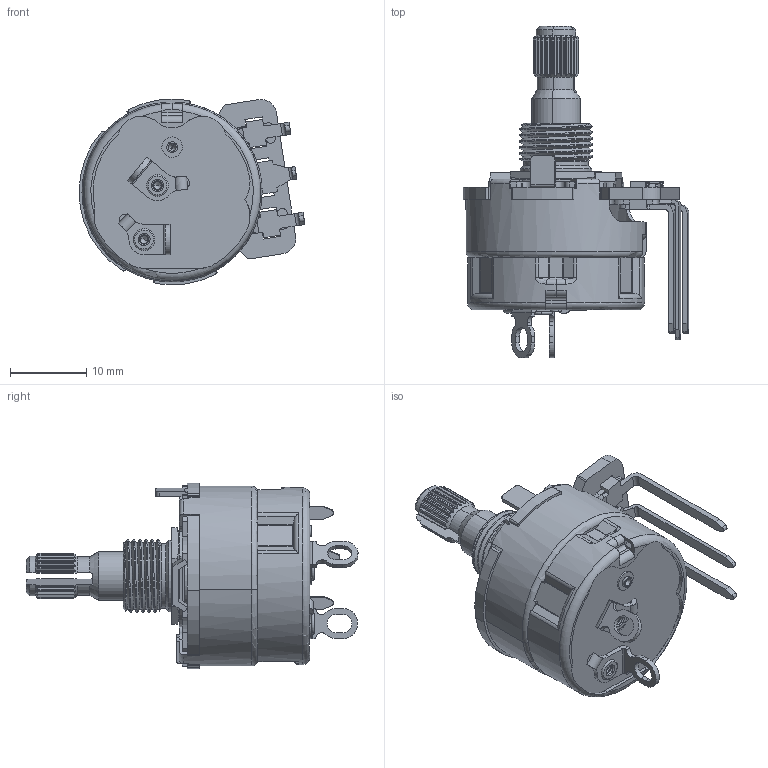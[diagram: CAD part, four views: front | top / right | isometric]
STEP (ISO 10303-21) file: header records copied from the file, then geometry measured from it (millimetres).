
FILE_DESCRIPTION (( 'STEP AP214' ), '1' );
FILE_NAME ('450V224K504A1J1.STEP', '2019-05-27T01:29:37', ( '' ), ( '' ), 'SwSTEP 2.0', 'SolidWorks 2019', '' );
FILE_SCHEMA (( 'AUTOMOTIVE_DESIGN' ));
Length unit declared in the file: millimetre
Products named in the file (18): 450-01-T08-30-01G(simple); Pivot_G_B_5C_RollOver Operation; 450S-DL-11338-24; Simple TGC-39; 450-40-019-02-53_2-45Q-T; SwitchBaseAssembling_Dummy GC-42T; 45C-2T-Left lug; V450VAEDF-1; 450B-4; 450F for V450AEDF-1; Switch BaseG_A_19; G-D-1_G_D_1; 450V224K504A1J1; G-D-1_G_E_1; 450D-5 for V450AEDF-1; 450 element; Counter RivotGC_C_1G_RollOver Operation; Cover_GK_4_Embossed Operatopm
Assembly tree (19 placements, depth 4):
  450V224K504A1J1
    Simple TGC-39
      Cover_GK_4_Embossed Operatopm
      SwitchBaseAssembling_Dummy GC-42T
        Switch BaseG_A_19
        G-D-1_G_D_1
        G-D-1_G_E_1
        Counter RivotGC_C_1G_RollOver Operation  x2
        Pivot_G_B_5C_RollOver Operation
    450-40-019-02-53_2-45Q-T
    V450VAEDF-1
      450-01-T08-30-01G(simple)
      450 element
      450F for V450AEDF-1  x2
      450D-5 for V450AEDF-1
    45C-2T-Left lug
    450B-4
    450S-DL-11338-24
Bounding box: 29.55 x 43.46 x 24.33 mm (x, y, z)
Volume: 3350.9 mm3; surface area: 8891.6 mm2
Topology: 16 solids, 16 shells, 1153 faces, 3178 edges, 2044 vertices
Faces by surface type: plane 586, cylinder 411, torus 80, cone 54, bspline 12, sphere 10
Entity records: 36935 total; most frequent: CARTESIAN_POINT 8599, ORIENTED_EDGE 5924, DIRECTION 5775, EDGE_CURVE 2962, AXIS2_PLACEMENT_3D 2081, VERTEX_POINT 1920, LINE 1613, VECTOR 1613
